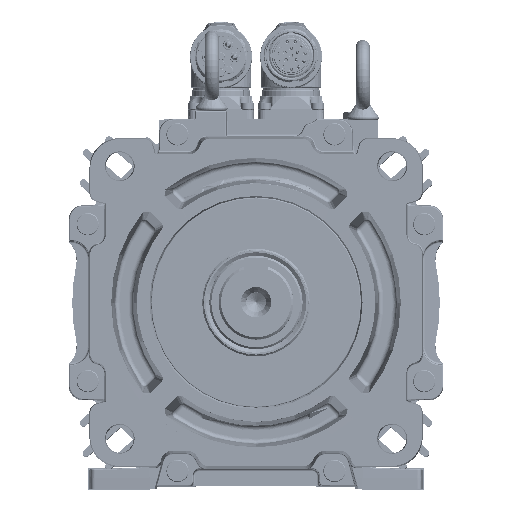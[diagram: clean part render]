
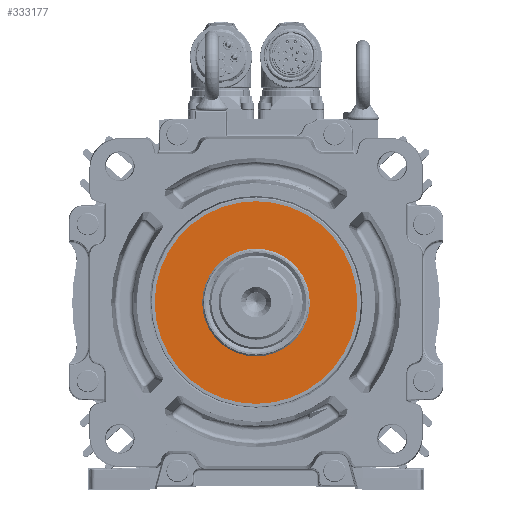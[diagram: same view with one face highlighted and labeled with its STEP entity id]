
A CAD part, top view. The second image highlights one B-rep face of the part: STEP entity #333177.
In plain terms, the highlighted planar face has unit normal (0, 0, 1) as drawn and (0, 1, 0) by its records, which use the part's own axes.
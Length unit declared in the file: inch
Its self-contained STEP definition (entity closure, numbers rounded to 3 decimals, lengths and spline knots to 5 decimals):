
#332619=CARTESIAN_POINT('',(0.,0.03,0.));
#332620=DIRECTION('',(0.,-1.,0.));
#332621=DIRECTION('',(1.,0.,0.));
#332622=AXIS2_PLACEMENT_3D('',#332619,#332620,#332621);
#332624=CARTESIAN_POINT('',(0.,0.03,0.));
#332625=DIRECTION('',(0.,-1.,0.));
#332626=DIRECTION('',(-1.,0.,0.));
#332627=AXIS2_PLACEMENT_3D('',#332624,#332625,#332626);
#332629=CARTESIAN_POINT('',(0.,0.03,0.));
#332630=DIRECTION('',(0.,1.,0.));
#332631=DIRECTION('',(1.,0.,0.));
#332632=AXIS2_PLACEMENT_3D('',#332629,#332630,#332631);
#332634=CARTESIAN_POINT('',(0.,0.03,0.));
#332635=DIRECTION('',(0.,1.,0.));
#332636=DIRECTION('',(-1.,0.,0.));
#332637=AXIS2_PLACEMENT_3D('',#332634,#332635,#332636);
#332817=CARTESIAN_POINT('',(1.74165,0.03,0.));
#332818=VERTEX_POINT('',#332817);
#332819=CARTESIAN_POINT('',(-1.74165,0.03,0.));
#332820=VERTEX_POINT('',#332819);
#332821=CARTESIAN_POINT('',(0.9074,0.03,0.));
#332822=CARTESIAN_POINT('',(-0.9074,0.03,0.));
#332823=VERTEX_POINT('',#332821);
#332824=VERTEX_POINT('',#332822);
#333162=CARTESIAN_POINT('',(0.,0.03,0.));
#333163=DIRECTION('',(0.,1.,0.));
#333164=DIRECTION('',(1.,0.,0.));
#333165=AXIS2_PLACEMENT_3D('',#333162,#333163,#333164);
#333166=PLANE('',#333165);
#333167=ORIENTED_EDGE('',*,*,#333150,.T.);
#333168=ORIENTED_EDGE('',*,*,#333127,.T.);
#333169=EDGE_LOOP('',(#333167,#333168));
#333170=FACE_OUTER_BOUND('',#333169,.F.);
#333172=ORIENTED_EDGE('',*,*,#333171,.T.);
#333174=ORIENTED_EDGE('',*,*,#333173,.T.);
#333175=EDGE_LOOP('',(#333172,#333174));
#333176=FACE_BOUND('',#333175,.F.);
#333177=ADVANCED_FACE('',(#333170,#333176),#333166,.T.);
#332623=CIRCLE('',#332622,1.74165);
#332628=CIRCLE('',#332627,1.74165);
#332633=CIRCLE('',#332632,0.9074);
#332638=CIRCLE('',#332637,0.9074);
#333127=EDGE_CURVE('',#332820,#332818,#332628,.T.);
#333150=EDGE_CURVE('',#332818,#332820,#332623,.T.);
#333171=EDGE_CURVE('',#332823,#332824,#332633,.T.);
#333173=EDGE_CURVE('',#332824,#332823,#332638,.T.);
